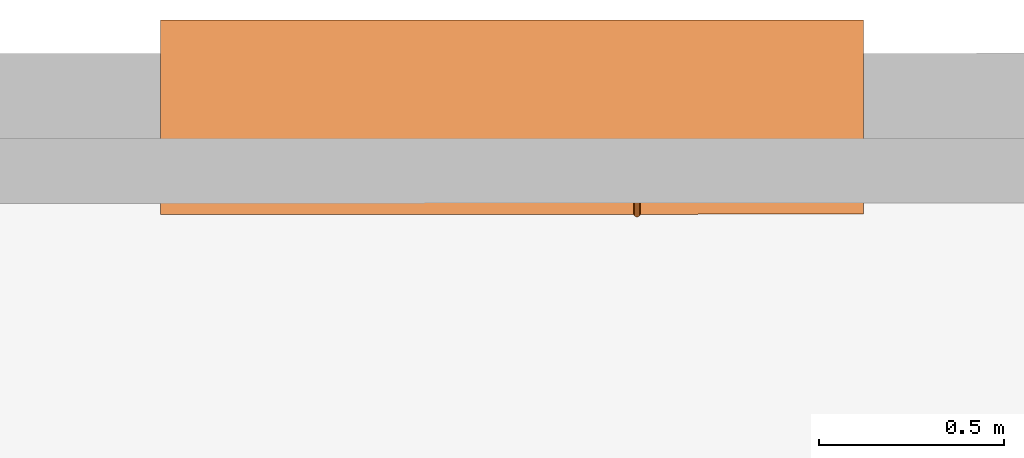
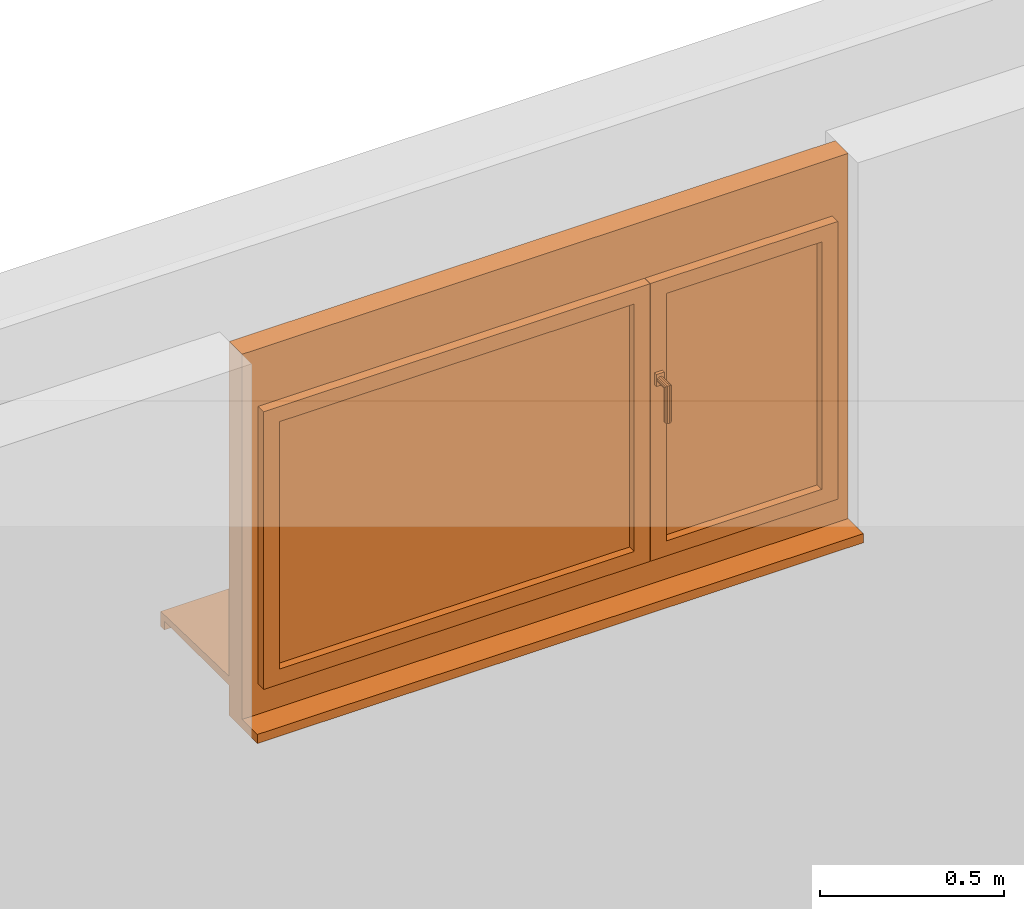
# One storey, part 9 of 9: 1 proxy.
"""IFC2X3 building model written with IfcOpenShell, lengths in metres."""

from ifc_helpers import new_model, entity, si_unit, converted_unit, derived_unit, direction, frame, origin, origin_with_axes, place, context, subcontext, project, spatial, closed_shell, open_shell, surface_model, source, transform, mapped, element, save


model = new_model("IFC2X3")

# Units and contexts
model_context = context("Model", 3, precision=1e-05, world=origin(), true_north=direction((0.772621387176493, -0.634867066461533)))
body_context = subcontext(model_context, "Body", "Model", "MODEL_VIEW")
ifc_project = project(units=[si_unit("LENGTHUNIT", "METRE"), si_unit("AREAUNIT", "SQUARE_METRE"), si_unit("VOLUMEUNIT", "CUBIC_METRE"), si_unit("MASSUNIT", "GRAM", prefix="KILO"), converted_unit("PLANEANGLEUNIT", "DEGREE", entity("IfcPlaneAngleMeasure", 0.0174532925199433), si_unit("PLANEANGLEUNIT", "RADIAN"), dimensions=[0, 0, 0, 0, 0, 0, 0]), derived_unit("THERMALTRANSMITTANCEUNIT", [(si_unit("POWERUNIT", "WATT"), 1), (si_unit("THERMODYNAMICTEMPERATUREUNIT", "KELVIN"), -1), (si_unit("LENGTHUNIT", "METRE"), -2)]), derived_unit("VOLUMETRICFLOWRATEUNIT", [(si_unit("LENGTHUNIT", "METRE"), 3), (converted_unit("TIMEUNIT", "hour", entity("IfcTimeMeasure", 3600.0), si_unit("TIMEUNIT", "SECOND"), dimensions=[0, 0, 1, 0, 0, 0, 0]), -1), (si_unit("LENGTHUNIT", "METRE"), -1)])], contexts=[model_context])

# Site, building, storey
site_placement = place(None, origin())
site = spatial("IfcSite", under=ifc_project, at=site_placement, Name="Modelle auf dem Nullpunkt", CompositionType="ELEMENT")
building_placement = place(site_placement, origin())
building = spatial("IfcBuilding", under=site, at=building_placement, Name="I", CompositionType="ELEMENT")
storey_placement = place(building_placement, origin())
storey = spatial("IfcBuildingStorey", under=building, at=storey_placement, Name="1.OG", CompositionType="ELEMENT", Elevation=0.0)

# Proxy
shared_shape = source(origin_with_axes(), body_context, "Body", "SurfaceModel", [
    surface_model("IfcShellBasedSurfaceModel", [(1.90000000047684, 0.020000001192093, 0.1), (1.90000000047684, 0.020000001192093, 0.07), (1.90000000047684, 0.0, 0.07), (1.90000000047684, 0.0, 0.12), (1.9, 0.372500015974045, 0.13), (1.9, 0.372500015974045, 0.1), (0.0, 0.372500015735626, 0.1), (0.0, 0.372500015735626, 0.13), (0.0, 0.0, 0.12), (0.0, 0.0, 0.07), (0.0, 0.020000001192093, 0.07), (0.0, 0.020000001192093, 0.1)], [closed_shell([[[0, 1, 2, 3, 4, 5]], [[6, 7, 8, 9, 10, 11]], [[5, 6, 11, 0]], [[4, 7, 6, 5]], [[3, 8, 7, 4]], [[2, 9, 8, 3]], [[1, 10, 9, 2]], [[0, 11, 10, 1]]], orient=[[False], [False], [False], [False], [False], [False], [False], [False]])]),
    surface_model("IfcShellBasedSurfaceModel", [(1.90000000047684, 0.525000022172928, 0.0), (1.90000000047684, 0.412500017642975, 0.0), (1.90000000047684, 0.412500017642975, 0.03), (1.90000000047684, 0.525000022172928, 0.03), (0.0, 0.412500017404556, 0.0), (0.0, 0.525000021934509, 0.0), (0.0, 0.525000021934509, 0.03), (0.0, 0.412500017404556, 0.03)], [closed_shell([[[0, 1, 2, 3]], [[4, 5, 6, 7]], [[1, 0, 5, 4]], [[2, 1, 4, 7]], [[3, 2, 7, 6]], [[0, 3, 6, 5]]], orient=[[False], [False], [False], [False], [False], [False]])]),
    surface_model("IfcShellBasedSurfaceModel", [(1.90000000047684, 0.442500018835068, 1.24), (1.83000000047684, 0.442500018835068, 1.24), (1.83000000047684, 0.442500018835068, 0.0), (1.90000000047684, 0.442500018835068, 0.0), (1.9, 0.372500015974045, 0.0), (1.83000000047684, 0.372500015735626, 0.0), (1.83000000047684, 0.372500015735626, 1.24), (1.9, 0.372500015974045, 1.24)], [closed_shell([[[0, 1, 2, 3]], [[4, 5, 6, 7]], [[3, 4, 7, 0]], [[2, 5, 4, 3]], [[1, 6, 5, 2]], [[0, 7, 6, 1]]], orient=[[False], [False], [False], [False], [False], [False]])]),
    surface_model("IfcShellBasedSurfaceModel", [(0.07, 0.442500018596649, 1.24), (0.0, 0.442500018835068, 1.24), (0.0, 0.442500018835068, 0.0), (0.07, 0.442500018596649, 0.0), (0.07, 0.372500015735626, 0.0), (0.0, 0.372500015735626, 0.0), (0.0, 0.372500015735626, 1.24), (0.07, 0.372500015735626, 1.24)], [closed_shell([[[0, 1, 2, 3]], [[4, 5, 6, 7]], [[3, 4, 7, 0]], [[2, 5, 4, 3]], [[1, 6, 5, 2]], [[0, 7, 6, 1]]], orient=[[False], [False], [False], [False], [False], [False]])]),
    surface_model("IfcShellBasedSurfaceModel", [(1.83000000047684, 0.442500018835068, 0.15), (0.07, 0.442500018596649, 0.15), (0.07, 0.442500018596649, 0.0), (1.83000000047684, 0.442500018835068, 0.0), (1.83000000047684, 0.372500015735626, 0.0), (0.07, 0.372500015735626, 0.0), (0.07, 0.372500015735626, 0.15), (1.83000000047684, 0.372500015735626, 0.15)], [closed_shell([[[0, 1, 2, 3]], [[4, 5, 6, 7]], [[3, 4, 7, 0]], [[2, 5, 4, 3]], [[1, 6, 5, 2]], [[0, 7, 6, 1]]], orient=[[False], [False], [False], [False], [False], [False]])]),
    surface_model("IfcShellBasedSurfaceModel", [(1.83000000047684, 0.442500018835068, 1.24), (0.07, 0.442500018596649, 1.24), (0.07, 0.442500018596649, 1.03), (1.83000000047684, 0.442500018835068, 1.03), (1.83000000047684, 0.372500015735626, 1.03), (0.07, 0.372500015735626, 1.03), (0.07, 0.372500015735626, 1.24), (1.83000000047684, 0.372500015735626, 1.24)], [closed_shell([[[0, 1, 2, 3]], [[4, 5, 6, 7]], [[3, 4, 7, 0]], [[2, 5, 4, 3]], [[1, 6, 5, 2]], [[0, 7, 6, 1]]], orient=[[False], [False], [False], [False], [False], [False]])]),
    surface_model("IfcShellBasedSurfaceModel", [(1.85000000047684, 0.47250002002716, 1.05), (1.80000000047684, 0.47250002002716, 1.05), (1.80000000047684, 0.47250002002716, 0.13), (1.85000000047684, 0.47250002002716, 0.13), (1.85000000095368, 0.422500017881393, 0.13), (1.80000000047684, 0.422500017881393, 0.13), (1.80000000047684, 0.422500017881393, 1.05), (1.85000000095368, 0.422500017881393, 1.05)], [closed_shell([[[0, 1, 2, 3]], [[4, 5, 6, 7]], [[3, 4, 7, 0]], [[2, 5, 4, 3]], [[1, 6, 5, 2]], [[0, 7, 6, 1]]], orient=[[False], [False], [False], [False], [False], [False]])]),
    surface_model("IfcShellBasedSurfaceModel", [(0.688241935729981, 0.47250002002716, 1.05), (0.638241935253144, 0.47250002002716, 1.05), (0.638241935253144, 0.47250002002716, 0.13), (0.688241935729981, 0.47250002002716, 0.13), (0.688241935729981, 0.422500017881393, 0.13), (0.638241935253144, 0.422500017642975, 0.13), (0.638241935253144, 0.422500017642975, 1.05), (0.688241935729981, 0.422500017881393, 1.05)], [closed_shell([[[0, 1, 2, 3]], [[4, 5, 6, 7]], [[3, 4, 7, 0]], [[2, 5, 4, 3]], [[1, 6, 5, 2]], [[0, 7, 6, 1]]], orient=[[False], [False], [False], [False], [False], [False]])]),
    surface_model("IfcShellBasedSurfaceModel", [(1.80000000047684, 0.47250002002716, 0.18), (0.688241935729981, 0.47250002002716, 0.18), (0.688241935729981, 0.47250002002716, 0.13), (1.80000000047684, 0.47250002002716, 0.13), (1.80000000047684, 0.422500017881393, 0.13), (0.688241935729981, 0.422500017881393, 0.13), (0.688241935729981, 0.422500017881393, 0.18), (1.80000000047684, 0.422500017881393, 0.18)], [closed_shell([[[0, 1, 2, 3]], [[4, 5, 6, 7]], [[3, 4, 7, 0]], [[2, 5, 4, 3]], [[1, 6, 5, 2]], [[0, 7, 6, 1]]], orient=[[False], [False], [False], [False], [False], [False]])]),
    surface_model("IfcShellBasedSurfaceModel", [(1.80000000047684, 0.47250002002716, 1.05), (0.688241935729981, 0.47250002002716, 1.05), (0.688241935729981, 0.47250002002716, 1.0), (1.80000000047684, 0.47250002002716, 1.0), (1.80000000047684, 0.422500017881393, 1.0), (0.688241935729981, 0.422500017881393, 1.0), (0.688241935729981, 0.422500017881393, 1.05), (1.80000000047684, 0.422500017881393, 1.05)], [closed_shell([[[0, 1, 2, 3]], [[4, 5, 6, 7]], [[3, 4, 7, 0]], [[2, 5, 4, 3]], [[1, 6, 5, 2]], [[0, 7, 6, 1]]], orient=[[False], [False], [False], [False], [False], [False]])]),
    surface_model("IfcShellBasedSurfaceModel", [(0.663241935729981, 0.422500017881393, 1.03), (0.613241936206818, 0.422500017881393, 1.03), (0.613241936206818, 0.422500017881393, 0.15), (0.663241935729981, 0.422500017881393, 0.15), (0.663241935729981, 0.397500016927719, 0.15), (0.613241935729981, 0.397500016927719, 0.15), (0.613241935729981, 0.397500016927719, 1.03), (0.663241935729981, 0.397500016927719, 1.03)], [closed_shell([[[0, 1, 2, 3]], [[4, 5, 6, 7]], [[3, 4, 7, 0]], [[2, 5, 4, 3]], [[1, 6, 5, 2]], [[0, 7, 6, 1]]], orient=[[False], [False], [False], [False], [False], [False]])]),
    surface_model("IfcShellBasedSurfaceModel", [(0.637241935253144, 0.47250002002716, 1.05), (0.587241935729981, 0.47250002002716, 1.05), (0.587241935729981, 0.47250002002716, 0.13), (0.637241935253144, 0.47250002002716, 0.13), (0.637241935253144, 0.422500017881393, 0.13), (0.587241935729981, 0.422500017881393, 0.13), (0.587241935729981, 0.422500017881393, 1.05), (0.637241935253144, 0.422500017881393, 1.05)], [closed_shell([[[0, 1, 2, 3]], [[4, 5, 6, 7]], [[3, 4, 7, 0]], [[2, 5, 4, 3]], [[1, 6, 5, 2]], [[0, 7, 6, 1]]], orient=[[False], [False], [False], [False], [False], [False]])]),
    surface_model("IfcShellBasedSurfaceModel", [(0.1, 0.47250002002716, 1.05), (0.0499999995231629, 0.472500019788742, 1.05), (0.0499999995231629, 0.472500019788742, 0.13), (0.1, 0.47250002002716, 0.13), (0.1, 0.422500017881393, 0.13), (0.05, 0.422500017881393, 0.13), (0.05, 0.422500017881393, 1.05), (0.1, 0.422500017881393, 1.05)], [closed_shell([[[0, 1, 2, 3]], [[4, 5, 6, 7]], [[3, 4, 7, 0]], [[2, 5, 4, 3]], [[1, 6, 5, 2]], [[0, 7, 6, 1]]], orient=[[False], [False], [False], [False], [False], [False]])]),
    surface_model("IfcShellBasedSurfaceModel", [(0.587241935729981, 0.47250002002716, 0.18), (0.1, 0.47250002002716, 0.18), (0.1, 0.47250002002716, 0.13), (0.587241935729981, 0.47250002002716, 0.13), (0.587241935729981, 0.422500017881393, 0.13), (0.1, 0.422500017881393, 0.13), (0.1, 0.422500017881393, 0.18), (0.587241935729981, 0.422500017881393, 0.18)], [closed_shell([[[0, 1, 2, 3]], [[4, 5, 6, 7]], [[3, 4, 7, 0]], [[2, 5, 4, 3]], [[1, 6, 5, 2]], [[0, 7, 6, 1]]], orient=[[False], [False], [False], [False], [False], [False]])]),
    surface_model("IfcShellBasedSurfaceModel", [(0.587241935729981, 0.47250002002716, 1.05), (0.1, 0.47250002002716, 1.05), (0.1, 0.47250002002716, 1.0), (0.587241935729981, 0.47250002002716, 1.0), (0.587241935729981, 0.422500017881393, 1.0), (0.1, 0.422500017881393, 1.0), (0.1, 0.422500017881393, 1.05), (0.587241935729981, 0.422500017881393, 1.05)], [closed_shell([[[0, 1, 2, 3]], [[4, 5, 6, 7]], [[3, 4, 7, 0]], [[2, 5, 4, 3]], [[1, 6, 5, 2]], [[0, 7, 6, 1]]], orient=[[False], [False], [False], [False], [False], [False]])]),
    surface_model("IfcShellBasedSurfaceModel", [(0.624741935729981, 0.47250002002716, 0.75), (0.624741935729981, 0.47250002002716, 0.71), (0.599741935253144, 0.47250002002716, 0.71), (0.599741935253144, 0.47250002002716, 0.75), (0.624741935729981, 0.482500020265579, 0.71), (0.624741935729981, 0.482500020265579, 0.75), (0.599741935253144, 0.482500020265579, 0.75), (0.599741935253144, 0.482500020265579, 0.71)], [closed_shell([[[0, 1, 2, 3]], [[4, 5, 6, 7]], [[1, 0, 5, 4]], [[2, 1, 4, 7]], [[3, 2, 7, 6]], [[0, 3, 6, 5]]], orient=[[False], [False], [False], [False], [False], [False]])]),
    surface_model("IfcShellBasedSurfaceModel", [(0.602241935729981, 0.482500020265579, 0.73), (0.603581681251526, 0.482500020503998, 0.735), (0.607241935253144, 0.482500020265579, 0.738660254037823), (0.612241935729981, 0.482500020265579, 0.74), (0.617241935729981, 0.482500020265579, 0.738660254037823), (0.620902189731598, 0.482500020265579, 0.735), (0.622241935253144, 0.482500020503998, 0.73), (0.620902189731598, 0.482500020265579, 0.725), (0.617241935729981, 0.482500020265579, 0.721339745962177), (0.612241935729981, 0.482500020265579, 0.72), (0.607241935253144, 0.482500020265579, 0.721339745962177), (0.603581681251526, 0.482500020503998, 0.725), (0.602241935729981, 0.522500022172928, 0.73), (0.603581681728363, 0.527500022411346, 0.735), (0.607241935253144, 0.531160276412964, 0.738660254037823), (0.612241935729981, 0.532500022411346, 0.74), (0.617241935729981, 0.531160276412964, 0.738660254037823), (0.620902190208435, 0.527500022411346, 0.735), (0.622241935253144, 0.522500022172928, 0.73), (0.620902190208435, 0.51750002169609, 0.725), (0.617241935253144, 0.513839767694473, 0.721339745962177), (0.612241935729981, 0.51250002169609, 0.72), (0.607241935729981, 0.513839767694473, 0.721339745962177), (0.603581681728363, 0.517500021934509, 0.725), (0.602241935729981, 0.522500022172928, 0.615), (0.603581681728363, 0.517500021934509, 0.615), (0.607241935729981, 0.513839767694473, 0.615), (0.612241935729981, 0.51250002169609, 0.615), (0.617241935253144, 0.513839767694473, 0.615), (0.620902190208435, 0.51750002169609, 0.615), (0.622241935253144, 0.522500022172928, 0.615), (0.620902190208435, 0.527500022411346, 0.615), (0.617241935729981, 0.531160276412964, 0.615), (0.612241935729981, 0.532500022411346, 0.615), (0.607241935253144, 0.531160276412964, 0.615), (0.603581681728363, 0.527500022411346, 0.615)], [closed_shell([[[0, 1, 2, 3, 4, 5, 6, 7, 8, 9, 10, 11]], [[0, 12, 13, 1]], [[1, 13, 14, 2]], [[2, 14, 15, 3]], [[3, 15, 16, 4]], [[4, 16, 17, 5]], [[5, 17, 18, 6]], [[6, 18, 19, 7]], [[7, 19, 20, 8]], [[8, 20, 21, 9]], [[9, 21, 22, 10]], [[10, 22, 23, 11]], [[11, 23, 12, 0]], [[24, 25, 26, 27, 28, 29, 30, 31, 32, 33, 34, 35]], [[12, 24, 35, 13]], [[13, 35, 34, 14]], [[14, 34, 33, 15]], [[15, 33, 32, 16]], [[16, 32, 31, 17]], [[17, 31, 30, 18]], [[18, 30, 29, 19]], [[19, 29, 28, 20]], [[20, 28, 27, 21]], [[21, 27, 26, 22]], [[22, 26, 25, 23]], [[23, 25, 24, 12]]], orient=[[False], [False], [False], [False], [False], [False], [False], [False], [False], [False], [False], [False], [False], [False], [False], [False], [False], [False], [False], [False], [False], [False], [False], [False], [False], [False]])]),
    surface_model("IfcShellBasedSurfaceModel", [(1.80000000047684, 0.447500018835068, 0.18), (1.80000000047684, 0.447500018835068, 1.0), (0.688241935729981, 0.447500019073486, 1.0), (0.688241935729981, 0.447500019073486, 0.18)], [open_shell([[[0, 1, 2, 3]]], orient=[[False]])]),
    surface_model("IfcShellBasedSurfaceModel", [(0.587241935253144, 0.447500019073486, 0.18), (0.587241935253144, 0.447500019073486, 1.0), (0.1, 0.447500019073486, 1.0), (0.1, 0.447500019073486, 0.18)], [open_shell([[[0, 1, 2, 3]]], orient=[[False]])]),
])
proxy_placement = place(storey_placement, frame((39.7468340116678, 2.4602832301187, 440.15), z_axis=(0.0, 0.0, 1.0), x_axis=(-0.999999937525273, -0.000353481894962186, 0.0)))
element("IfcBuildingElementProxy", 1, at=proxy_placement, inside=storey, Name="2flg Weiß Stulp", context=body_context, shape_type="MappedRepresentation", body=[
    mapped(shared_shape, transform((0.0, 0.0, 0.0), x_axis=(1.0, 0.0, 0.0), y_axis=(0.0, 1.0, 0.0), z_axis=(0.0, 0.0, 1.0), scale=1.0)),
])

save(model, "model.ifc")
